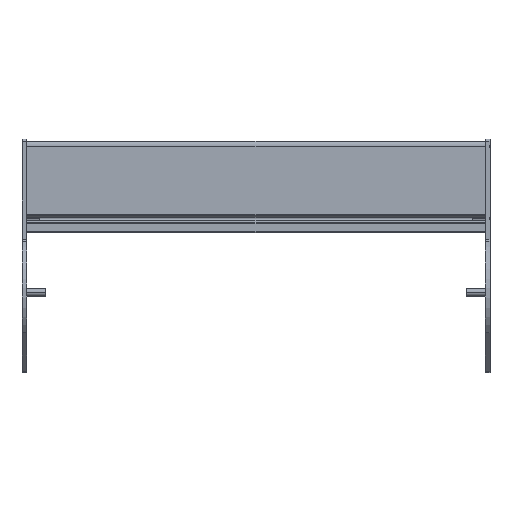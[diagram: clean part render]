
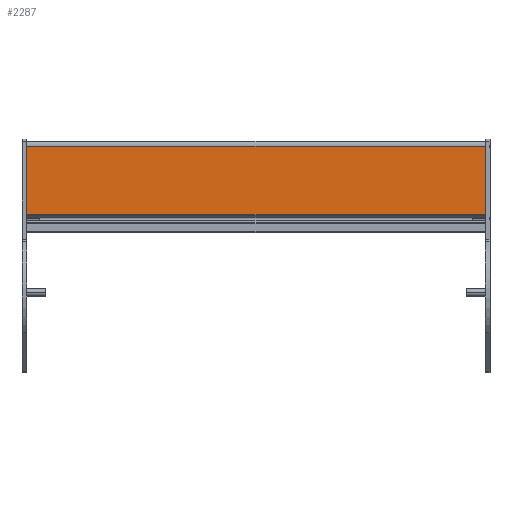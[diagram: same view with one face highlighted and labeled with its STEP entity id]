
A CAD part, top view. The second image highlights one B-rep face of the part: STEP entity #2287.
In plain terms, the highlighted planar face has unit normal (0, 0, 1) as drawn and (1, 0, 0) by its records, which use the part's own axes.
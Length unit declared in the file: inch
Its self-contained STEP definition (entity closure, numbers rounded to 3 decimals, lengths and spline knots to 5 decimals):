
#197=DIRECTION('',(0.,1.,0.));
#198=VECTOR('',#197,1.81445);
#199=CARTESIAN_POINT('',(0.683,-0.84545,-6.118));
#200=LINE('',#199,#198);
#303=DIRECTION('',(0.,1.,0.));
#304=VECTOR('',#303,1.81445);
#305=CARTESIAN_POINT('',(0.683,-0.84545,6.118));
#306=LINE('',#305,#304);
#652=DIRECTION('',(0.,0.,1.));
#653=VECTOR('',#652,12.236);
#654=CARTESIAN_POINT('',(0.683,0.969,-6.118));
#655=LINE('',#654,#653);
#665=DIRECTION('',(0.,0.,-1.));
#666=VECTOR('',#665,12.236);
#667=CARTESIAN_POINT('',(0.683,-0.84545,6.118));
#668=LINE('',#667,#666);
#1268=CARTESIAN_POINT('',(0.683,-0.84545,-6.118));
#1269=CARTESIAN_POINT('',(0.683,0.969,-6.118));
#1270=VERTEX_POINT('',#1268);
#1271=VERTEX_POINT('',#1269);
#1272=CARTESIAN_POINT('',(0.683,-0.84545,6.118));
#1273=CARTESIAN_POINT('',(0.683,0.969,6.118));
#1274=VERTEX_POINT('',#1272);
#1275=VERTEX_POINT('',#1273);
#2275=CARTESIAN_POINT('',(0.683,-0.86334,-6.118));
#2276=DIRECTION('',(1.,0.,0.));
#2277=DIRECTION('',(0.,1.,0.));
#2278=AXIS2_PLACEMENT_3D('',#2275,#2276,#2277);
#2279=PLANE('',#2278);
#2280=ORIENTED_EDGE('',*,*,#1633,.F.);
#2282=ORIENTED_EDGE('',*,*,#2281,.F.);
#2283=ORIENTED_EDGE('',*,*,#1736,.T.);
#2284=ORIENTED_EDGE('',*,*,#2268,.F.);
#2285=EDGE_LOOP('',(#2280,#2282,#2283,#2284));
#2286=FACE_OUTER_BOUND('',#2285,.F.);
#1633=EDGE_CURVE('',#1270,#1271,#200,.T.);
#1736=EDGE_CURVE('',#1274,#1275,#306,.T.);
#2268=EDGE_CURVE('',#1271,#1275,#655,.T.);
#2281=EDGE_CURVE('',#1274,#1270,#668,.T.);
#2287=ADVANCED_FACE('',(#2286),#2279,.T.);
